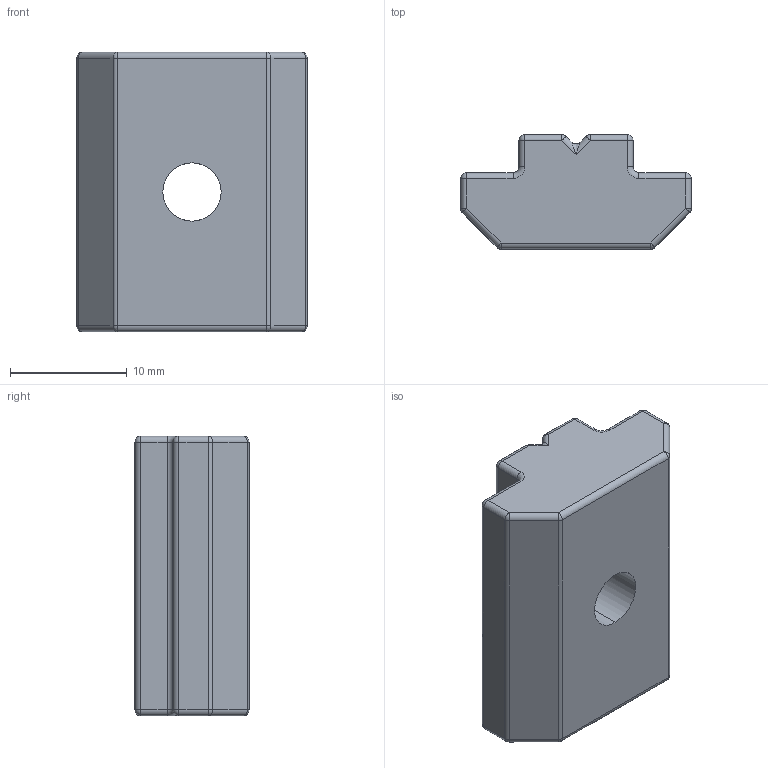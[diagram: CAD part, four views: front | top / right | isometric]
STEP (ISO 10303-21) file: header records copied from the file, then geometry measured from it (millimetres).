
FILE_DESCRIPTION (( 'STEP AP203' ), '1' );
FILE_NAME ('5073.STEP', '2016-04-22T17:25:58', ( '' ), ( '' ), 'SwSTEP 2.0', 'SolidWorks 2014', '' );
FILE_SCHEMA (( 'CONFIG_CONTROL_DESIGN' ));
Length unit declared in the file: millimetre
Products named in the file (1): 5073
Bounding box: 19.8 x 9.8 x 24 mm (x, y, z)
Volume: 3396.7 mm3; surface area: 1695.1 mm2
Topology: 1 solids, 1 shells, 87 faces, 202 edges, 98 vertices
Faces by surface type: cylinder 44, sphere 20, plane 17, torus 4, bspline 2
Entity records: 2407 total; most frequent: CARTESIAN_POINT 476, DIRECTION 422, ORIENTED_EDGE 368, EDGE_CURVE 184, AXIS2_PLACEMENT_3D 168, VERTEX_POINT 98, EDGE_LOOP 88, ADVANCED_FACE 87
